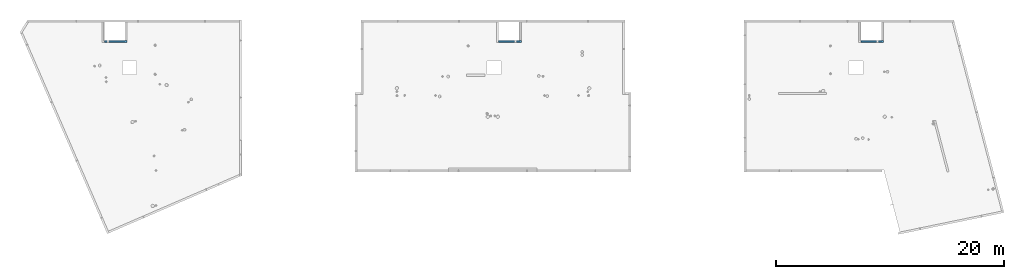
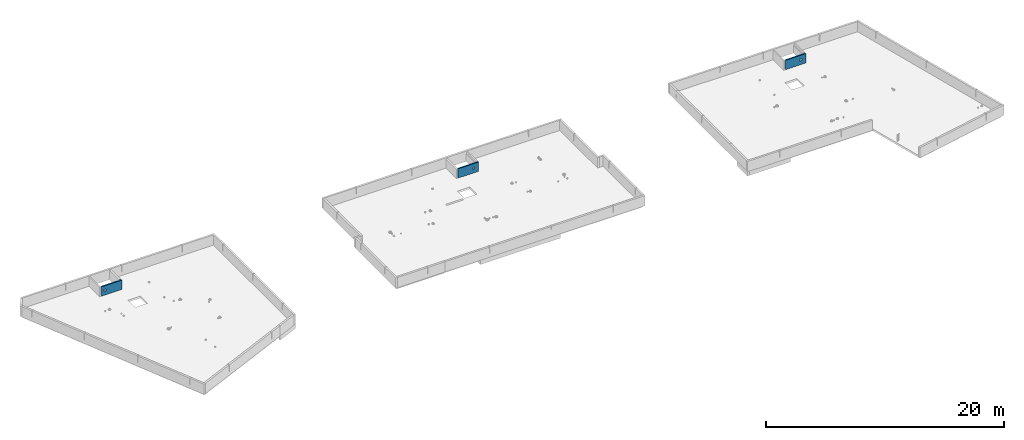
# One storey, part 3 of 12: 3 walls.
"""IFC2X3 building model written with IfcOpenShell, lengths in centimetres."""

from ifc_helpers import new_model, entity, si_unit, converted_unit, derived_unit, direction, frame, origin, place, context, subcontext, project, spatial, faceted_brep, type_object, element, save


model = new_model("IFC2X3")

# Units and contexts
model_context = context("Model", 3, precision=0.001, world=origin(), true_north=direction((6.12303176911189e-17, 1.0)))
body_context = subcontext(model_context, "Body", "Model", "MODEL_VIEW")
ifc_project = project(units=[si_unit("LENGTHUNIT", "METRE", prefix="CENTI"), si_unit("AREAUNIT", "SQUARE_METRE"), si_unit("VOLUMEUNIT", "CUBIC_METRE"), converted_unit("PLANEANGLEUNIT", "DEGREE", entity("IfcRatioMeasure", 0.0174532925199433), si_unit("PLANEANGLEUNIT", "RADIAN"), dimensions=[0, 0, 0, 0, 0, 0, 0]), si_unit("MASSUNIT", "GRAM", prefix="KILO"), derived_unit("MASSDENSITYUNIT", [(si_unit("MASSUNIT", "GRAM", prefix="KILO"), 1), (si_unit("LENGTHUNIT", "METRE"), -3)]), si_unit("TIMEUNIT", "SECOND"), si_unit("FREQUENCYUNIT", "HERTZ"), si_unit("THERMODYNAMICTEMPERATUREUNIT", "DEGREE_CELSIUS"), derived_unit("THERMALTRANSMITTANCEUNIT", [(si_unit("MASSUNIT", "GRAM", prefix="KILO"), 1), (si_unit("THERMODYNAMICTEMPERATUREUNIT", "KELVIN"), -1), (si_unit("TIMEUNIT", "SECOND"), -3)]), derived_unit("VOLUMETRICFLOWRATEUNIT", [(si_unit("LENGTHUNIT", "METRE"), 3), (si_unit("TIMEUNIT", "SECOND"), -1)]), si_unit("ELECTRICCURRENTUNIT", "AMPERE"), si_unit("ELECTRICVOLTAGEUNIT", "VOLT"), si_unit("POWERUNIT", "WATT"), si_unit("FORCEUNIT", "NEWTON"), si_unit("ILLUMINANCEUNIT", "LUX"), si_unit("LUMINOUSFLUXUNIT", "LUMEN"), si_unit("LUMINOUSINTENSITYUNIT", "CANDELA"), derived_unit("USERDEFINED", [(si_unit("MASSUNIT", "GRAM", prefix="KILO"), -1), (si_unit("LENGTHUNIT", "METRE"), -2), (si_unit("TIMEUNIT", "SECOND"), 3), (si_unit("LUMINOUSFLUXUNIT", "LUMEN"), 1)]), derived_unit("LINEARVELOCITYUNIT", [(si_unit("LENGTHUNIT", "METRE"), 1), (si_unit("TIMEUNIT", "SECOND"), -1)]), si_unit("PRESSUREUNIT", "PASCAL"), derived_unit("USERDEFINED", [(si_unit("LENGTHUNIT", "METRE"), -2), (si_unit("MASSUNIT", "GRAM", prefix="KILO"), 1), (si_unit("TIMEUNIT", "SECOND"), -2)])], contexts=[model_context])

# Site, building, storey
site_placement = place(None, origin())
site = spatial("IfcSite", under=ifc_project, at=site_placement, Name="Default", CompositionType="ELEMENT")
building_placement = place(site_placement, origin())
building = spatial("IfcBuilding", under=site, at=building_placement, Name="CAGE 03", CompositionType="ELEMENT")
storey_placement = place(building_placement, frame((0.0, 0.0, 1690.0)))
storey = spatial("IfcBuildingStorey", under=building, at=storey_placement, Name="R+6", CompositionType="ELEMENT", Elevation=1690.0)

# Walls
wall_type = type_object("IfcWallType", Name="Mur de base:premur 18", PredefinedType="NOTDEFINED")
wall_1_placement = place(storey_placement, frame((7133.36582014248, 4941.6606660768, 0.0)))
element("IfcWall", 1, at=wall_1_placement, inside=storey, type_object=wall_type, Name="Mur de base:premur 18", ObjectType="Mur de base:premur 18", context=body_context, shape_type="Brep", body=[
    faceted_brep([(0.0, -9.0, 0.0), (198.0, -9.0, 0.0), (198.0, -9.0, 95.0), (0.0, -9.0, 95.0), (137.0, -9.0, 60.0), (157.0, -9.0, 60.0), (157.0, -9.0, 40.0), (137.0, -9.0, 40.0), (198.0, 9.0, 0.0), (192.499999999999, 9.0, 0.0), (180.0, 9.0, 0.0), (0.0, 9.0, 0.0), (0.0, 9.0, 75.0), (180.0, 9.0, 75.0), (185.499999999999, 9.0, 75.0), (185.499999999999, 9.0, 95.0), (198.0, 9.0, 95.0), (157.0, 9.0, 60.0), (137.0, 9.0, 60.0), (137.0, 9.0, 40.0), (157.0, 9.0, 40.0), (0.0, -3.4999999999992, 0.0), (185.499999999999, 3.4999999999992, 95.0), (0.0, 3.50000000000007, 95.0), (0.0, 3.50000000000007, 75.0), (185.499999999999, 3.4999999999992, 75.0)], [[[0, 1, 2, 3], [4, 5, 6, 7]], [[8, 9, 10, 11, 12, 13, 14, 15, 16], [17, 18, 19, 20]], [[1, 0, 21, 11, 10, 9, 8]], [[3, 2, 16, 15, 22, 23]], [[2, 1, 8, 16]], [[0, 3, 23, 24, 12, 11, 21]], [[24, 25, 14, 13, 12]], [[25, 22, 15, 14]], [[25, 24, 23, 22]], [[17, 5, 4, 18]], [[18, 4, 7, 19]], [[19, 7, 6, 20]], [[5, 17, 20, 6]]]),
])
wall_2_placement = place(storey_placement, frame((10310.3658201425, 4941.66066607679, 0.0)))
element("IfcWall", 2, at=wall_2_placement, inside=storey, type_object=wall_type, Name="Mur de base:premur 18", ObjectType="Mur de base:premur 18", context=body_context, shape_type="Brep", body=[
    faceted_brep([(0.0, -9.0, 0.0), (198.0, -9.0, 0.0), (198.0, -9.0, 95.0), (0.0, -9.0, 95.0), (137.0, -9.0, 60.0), (157.0, -9.0, 60.0), (157.0, -9.0, 40.0), (137.0, -9.0, 40.0), (198.0, 9.0, 0.0), (180.0, 9.0, 0.0), (0.0, 9.0, 0.0), (0.0, 9.0, 75.0), (180.0, 9.0, 75.0), (185.499999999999, 9.0, 75.0), (185.499999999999, 9.0, 95.0), (198.0, 9.0, 95.0), (157.0, 9.0, 60.0), (137.0, 9.0, 60.0), (137.0, 9.0, 40.0), (157.0, 9.0, 40.0), (0.0, -3.4999999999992, 0.0), (185.499999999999, 3.50000000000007, 95.0), (0.0, 3.50000000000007, 95.0), (0.0, 3.50000000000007, 75.0), (185.499999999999, 3.50000000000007, 75.0)], [[[0, 1, 2, 3], [4, 5, 6, 7]], [[8, 9, 10, 11, 12, 13, 14, 15], [16, 17, 18, 19]], [[1, 0, 20, 10, 9, 8]], [[3, 2, 15, 14, 21, 22]], [[0, 3, 22, 23, 11, 10, 20]], [[2, 1, 8, 15]], [[23, 24, 13, 12, 11]], [[24, 21, 14, 13]], [[21, 24, 23, 22]], [[16, 5, 4, 17]], [[17, 4, 7, 18]], [[18, 7, 6, 19]], [[5, 16, 19, 6]]]),
])
wall_3_placement = place(storey_placement, frame((3672.36582014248, 4941.66066607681, 0.0)))
element("IfcWall", 3, at=wall_3_placement, inside=storey, type_object=wall_type, Name="Mur de base:premur 18", ObjectType="Mur de base:premur 18", context=body_context, shape_type="Brep", body=[
    faceted_brep([(0.0, -9.0, 0.0), (198.0, -9.0, 0.0), (198.0, -9.0, 95.0), (0.0, -9.0, 95.0), (23.0, -9.0, 60.0), (43.0, -9.0, 60.0), (43.0, -9.0, 40.0), (23.0, -9.0, 40.0), (198.0, 9.0, 0.0), (180.0, 9.0, 0.0), (0.0, 9.0, 0.0), (0.0, 9.0, 75.0), (180.0, 9.0, 75.0), (180.0, 9.0, 95.0), (198.0, 9.0, 95.0), (43.0, 9.0, 60.0), (23.0, 9.0, 60.0), (23.0, 9.0, 40.0), (43.0, 9.0, 40.0), (198.0, -3.50000000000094, 0.0), (180.0, 3.4999999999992, 95.0), (0.0, 3.50000000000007, 95.0), (0.0, 3.50000000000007, 75.0), (180.0, 3.4999999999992, 75.0)], [[[0, 1, 2, 3], [4, 5, 6, 7]], [[8, 9, 10, 11, 12, 13, 14], [15, 16, 17, 18]], [[1, 0, 10, 9, 8, 19]], [[3, 2, 14, 13, 20, 21]], [[2, 1, 19, 8, 14]], [[0, 3, 21, 22, 11, 10]], [[22, 23, 12, 11]], [[23, 20, 13, 12]], [[20, 23, 22, 21]], [[15, 5, 4, 16]], [[16, 4, 7, 17]], [[17, 7, 6, 18]], [[5, 15, 18, 6]]]),
])

save(model, "model.ifc")
